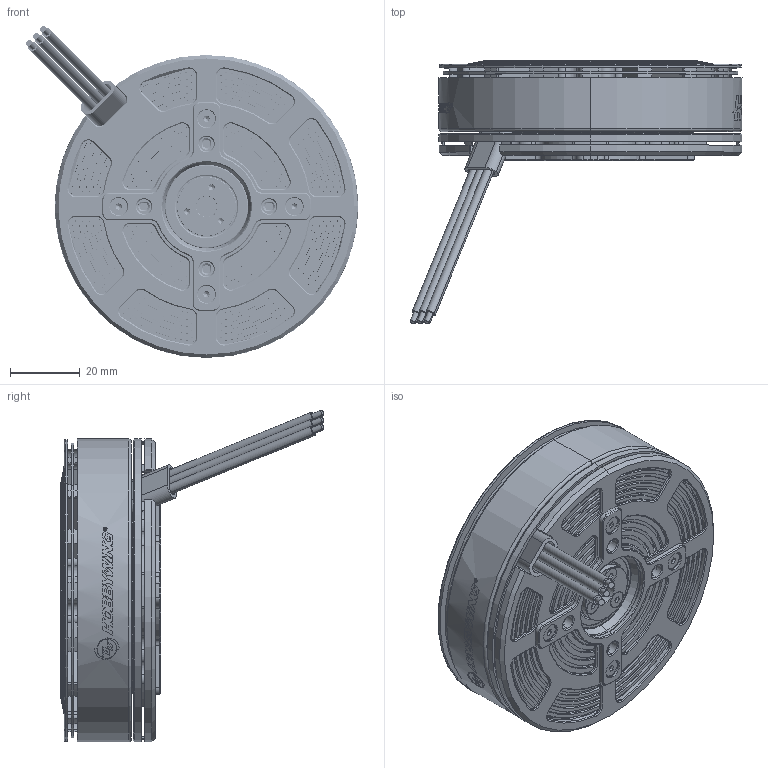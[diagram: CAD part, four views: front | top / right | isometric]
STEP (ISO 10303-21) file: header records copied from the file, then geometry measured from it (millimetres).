
FILE_DESCRIPTION (( 'STEP AP203' ), '1' );
FILE_NAME ('UAVM-HM-8110-95KV-BLACK-T1-HW-HP.STEP', '2023-11-08T00:49:02', ( '' ), ( '' ), 'SwSTEP 2.0', 'SolidWorks 2021', '' );
FILE_SCHEMA (( 'CONFIG_CONTROL_DESIGN' ));
Products named in the file (1): UAVM-HM-8110-95KV-BLACK-T1-HW-HP
Bounding box: 95.43 x 75.86 x 95.43 mm (x, y, z)
Volume: 89150.7 mm3; surface area: 60937.7 mm2
Topology: 11 solids, 17 shells, 3793 faces, 11007 edges, 7181 vertices
Faces by surface type: plane 1569, cylinder 1436, cone 390, bspline 275, torus 123
Entity records: 145430 total; most frequent: CARTESIAN_POINT 45208, ORIENTED_EDGE 21966, DIRECTION 20589, EDGE_CURVE 10983, AXIS2_PLACEMENT_3D 7397, VERTEX_POINT 7181, LINE 5795, VECTOR 5795
